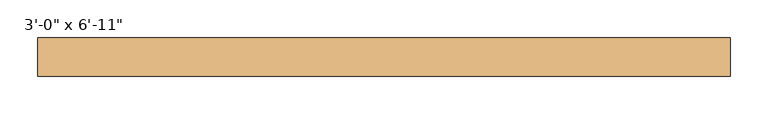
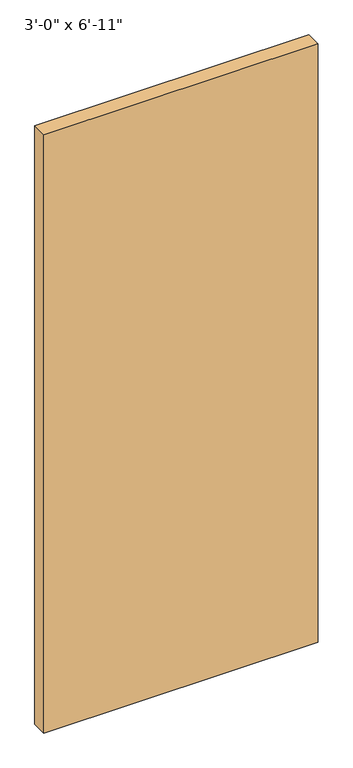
"""IFC4 building model written with IfcOpenShell, lengths in millimetres: door geometry."""

from ifc_helpers import new_model, si_unit, origin, origin_with_axes, place, context, project, spatial, polyline, outline, extrude, source, transform, mapped, element, save


def door_cb2762a8(model_context):
    return source(origin(), model_context, "Body", "SweptSolid", [
        extrude(outline(polyline([(457.2, -56.95), (457.2, -107.95), (-457.2, -107.95), (-457.2, -56.95), (457.2, -56.95)])), origin_with_axes(), (0.0, 0.0, 1.0), 2108.2),
    ])


if __name__ == "__main__":
    model = new_model("IFC4")
    model_context = context("Model", 3, world=origin())
    ifc_project = project(units=[si_unit("LENGTHUNIT", "METRE", prefix="MILLI")], contexts=[model_context])
    site = spatial("IfcSite", under=ifc_project)
    building = spatial("IfcBuilding", under=site)
    placement = place(None, origin())
    door_shape = door_cb2762a8(model_context)
    element("IfcDoor", 1, ObjectType="Planitar - Single Door_Flush Panel : 3'-0\" x 6'-11\"", at=placement, inside=building, context=model_context, shape_type="MappedRepresentation", body=[
        mapped(door_shape, transform((0.0, 0.0, 0.0), x_axis=(1.0, 0.0, 0.0), y_axis=(0.0, 1.0, 0.0), z_axis=(0.0, 0.0, 1.0))),
    ])
    save(model, "model.ifc")
